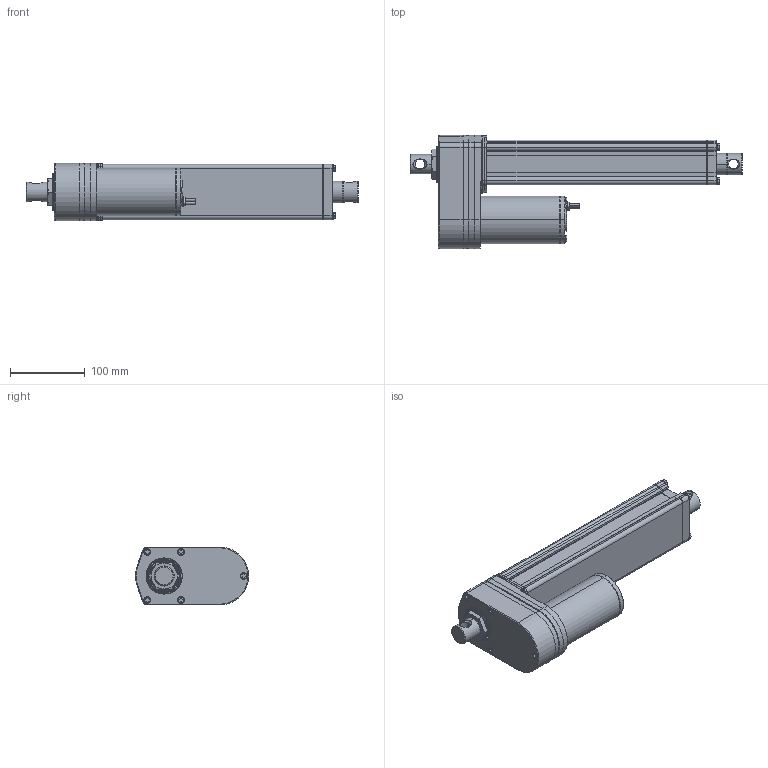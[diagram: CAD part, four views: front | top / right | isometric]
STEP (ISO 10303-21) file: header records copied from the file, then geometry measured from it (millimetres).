
FILE_DESCRIPTION((''),' ');
FILE_NAME('dszy13-200_std.stp',' ',('MSW'),('MSW'),' ','ACIS 14.0',' ');
FILE_SCHEMA(('automotive_design'));
Length unit declared in the file: inch
Products named in the file (2): dszy13-200_std
Bounding box: 444 x 151.7 x 77.2 mm (x, y, z)
Volume: 2137338.2 mm3; surface area: 238310.5 mm2
Topology: 2 solids, 2 shells, 1648 faces, 4015 edges, 2386 vertices
Faces by surface type: plane 1316, cylinder 218, cone 60, torus 30, bspline 24
Entity records: 60917 total; most frequent: CARTESIAN_POINT 8562, DIRECTION 8537, ORIENTED_EDGE 7982, EDGE_CURVE 3991, AXIS2_PLACEMENT_3D 2962, LINE 2613, VECTOR 2613, VERTEX_POINT 2386
